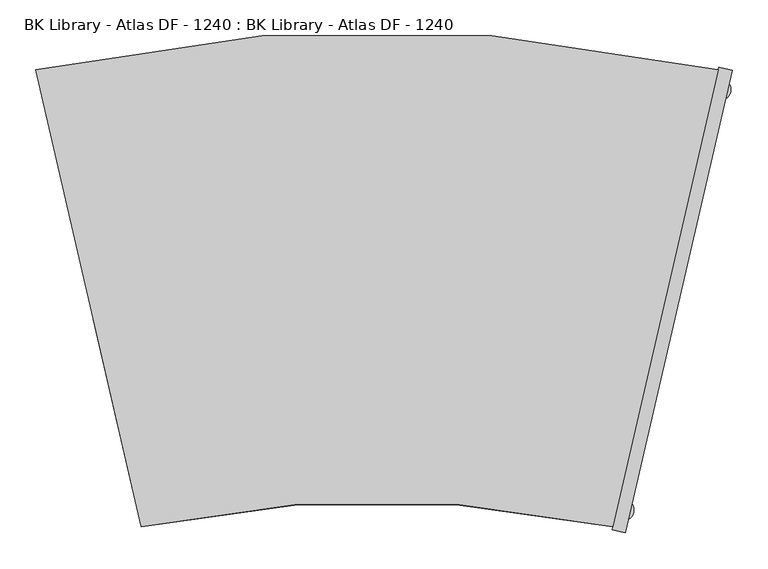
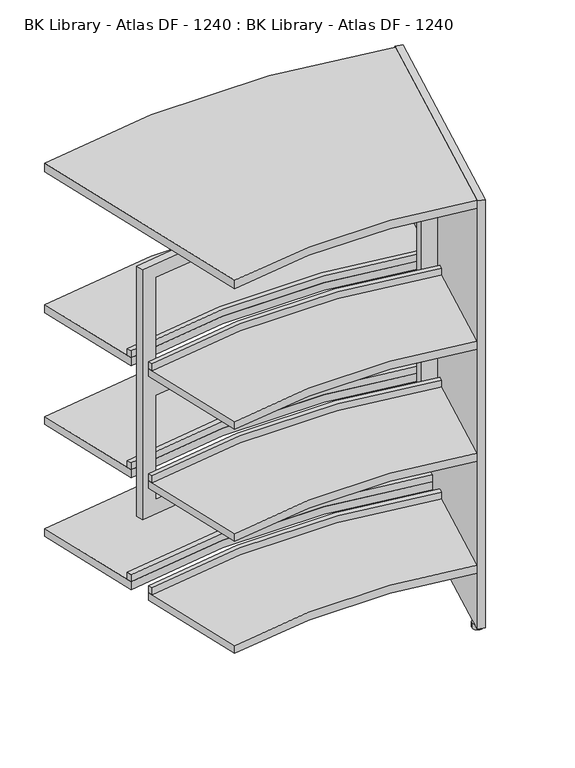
"""IFC4 building model written with IfcOpenShell, lengths in millimetres: furniture geometry, BK Library - Atlas DF - 1240 : BK Library - Atlas DF - 1240."""

from ifc_helpers import new_model, si_unit, point, frame, frame_2d, origin, origin_with_axes, place, context, project, spatial, polyline, circle_curve, trimmed, segment, composite_curve, outline, extrude, source, transform, mapped, element, save
from ifc_brep_helpers import plane_surface, cylinder_surface, revolved_surface, advanced_brep


def bk_library_atlas_df_1240_bk_library_atlas_df_1240_d876e077(model_context):
    return source(origin(), model_context, "Body", "SolidModel", [
        extrude(outline(composite_curve([segment(trimmed(circle_curve(frame_2d((0.0, -1777.8812307)), 2148.52767), [point((-474.1962162, 317.663829))], [point((474.1962162, 317.663829))], False, "CARTESIAN"), True, "CONTINUOUS"), segment(polyline([(474.1962162, 317.663829), (327.6944521, -317.663829)]), True, "CONTINUOUS"), segment(trimmed(circle_curve(frame_2d((0.0, -1840.4430404)), 1557.6392973), [point((327.6944521, -317.663829))], [point((-327.6944521, -317.663829))], True, "CARTESIAN"), True, "CONTINUOUS"), segment(polyline([(-327.6944521, -317.663829), (-474.1962162, 317.663829)]), True, "CONTINUOUS")], self_intersect=False)), frame((0.0, 0.0, 1213.6999998), z_axis=(0.0, 0.0, 1.0), x_axis=(1.0, 0.0, 0.0)), (0.0, 0.0, 1.0), 24.0),
        advanced_brep(
        [(-403.1922937, 9.7442892, 1106.1999998), (-398.6983746, -9.7442892, 1106.1999998), (398.6983746, -9.7442892, 1106.1999998), (403.1922937, 9.7442892, 1106.1999998), (-403.1922937, 9.7442892, 391.1999998), (403.1922937, 9.7442892, 391.1999998), (398.6983746, -9.7442892, 391.1999998), (-398.6983746, -9.7442892, 391.1999998), (359.7000463, -1.6061954, 1066.1999998), (359.7000463, -1.6061954, 768.6999998), (-359.7212176, -1.6103769, 768.6999998), (-359.7212176, -1.6103769, 1066.1999998), (-359.7212176, -1.6103769, 728.6999998), (359.7000463, -1.6061954, 728.6999998), (359.7000463, -1.6061954, 431.1999998), (-359.7212176, -1.6103769, 431.1999998), (359.7000463, 18.8192746, 768.6999998), (359.7000463, 18.8192746, 1066.1999998), (-359.7212176, 18.8151191, 1066.1999998), (-359.7212176, 18.8151191, 768.6999998), (359.7000463, 18.8192746, 728.6999998), (-359.7212176, 18.8151191, 728.6999998), (-359.7212176, 18.8151191, 431.1999998), (359.7000463, 18.8192746, 431.1999998)],
        [
            (0, 1),
            (1, 2, circle_curve(frame((0.0, -1822.824997, 1106.1999998), z_axis=(0.0, 0.0, -1.0), x_axis=(1.0, 0.0, 0.0)), 1856.4002927)),
            (2, 3),
            (3, 0, circle_curve(frame((0.0, -1813.8149651, 1106.1999998), z_axis=(0.0, 0.0, 1.0), x_axis=(1.0, 0.0, 0.0)), 1867.6007014)),
            (4, 5, circle_curve(frame((0.0, -1813.8149651, 391.1999998), z_axis=(0.0, 0.0, -1.0), x_axis=(1.0, 0.0, 0.0)), 1867.6007014)),
            (5, 6),
            (6, 7, circle_curve(frame((0.0, -1822.824997, 391.1999998), z_axis=(0.0, 0.0, 1.0), x_axis=(1.0, 0.0, 0.0)), 1856.4002927)),
            (7, 4),
            (0, 4),
            (7, 1),
            (2, 6),
            (5, 3),
            (8, 9),
            (9, 10, circle_curve(frame((0.0, -1822.824997, 768.6999998), z_axis=(0.0, 0.0, 1.0), x_axis=(1.0, 0.0, 0.0)), 1856.4002927)),
            (10, 11),
            (11, 8, circle_curve(frame((0.0, -1822.824997, 1066.1999998), z_axis=(0.0, 0.0, -1.0), x_axis=(1.0, 0.0, 0.0)), 1856.4002927)),
            (12, 13, circle_curve(frame((0.0, -1822.824997, 728.6999998), z_axis=(0.0, 0.0, -1.0), x_axis=(1.0, 0.0, 0.0)), 1856.4002927)),
            (13, 14),
            (14, 15, circle_curve(frame((0.0, -1822.824997, 431.1999998), z_axis=(0.0, 0.0, 1.0), x_axis=(1.0, 0.0, 0.0)), 1856.4002927)),
            (15, 12),
            (16, 17),
            (17, 18, circle_curve(frame((0.0, -1813.8149651, 1066.1999998), z_axis=(0.0, 0.0, 1.0), x_axis=(1.0, 0.0, 0.0)), 1867.6007014)),
            (18, 19),
            (19, 16, circle_curve(frame((0.0, -1813.8149651, 768.6999998), z_axis=(0.0, 0.0, -1.0), x_axis=(1.0, 0.0, 0.0)), 1867.6007014)),
            (20, 21, circle_curve(frame((0.0, -1813.8149651, 728.6999998), z_axis=(0.0, 0.0, 1.0), x_axis=(1.0, 0.0, 0.0)), 1867.6007014)),
            (21, 22),
            (22, 23, circle_curve(frame((0.0, -1813.8149651, 431.1999998), z_axis=(0.0, 0.0, -1.0), x_axis=(1.0, 0.0, 0.0)), 1867.6007014)),
            (23, 20),
            (16, 9),
            (8, 17),
            (11, 18),
            (10, 19),
            (20, 13),
            (12, 21),
            (15, 22),
            (14, 23),
        ],
        [
            plane_surface(frame((-326.7956683, -321.5615447, 1106.1999998), z_axis=(0.0, 0.0, 1.0), x_axis=(0.224695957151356, -0.9744289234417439, 0.0))),
            plane_surface(frame((-326.7956683, -321.5615447, 391.1999998), z_axis=(0.0, 0.0, -1.0), x_axis=(-0.224695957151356, 0.9744289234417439, 0.0))),
            plane_surface(frame((-403.1922937, 9.7442892, 1106.1999998), z_axis=(-0.9744289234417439, -0.224695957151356, 0.0), x_axis=(0.0, 0.0, -1.0))),
            plane_surface(frame((398.6983746, -9.7442892, 1106.1999998), z_axis=(0.974428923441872, -0.22469595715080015, 0.0), x_axis=(0.0, 0.0, -1.0))),
            revolved_surface(polyline([(1856.4002927, -1822.824997, 391.1999998), (1856.4002927, -1822.824997, 1106.1999998)]), (0.0, -1822.824997, 391.1999998), (0.0, 0.0, -1.0)),
            cylinder_surface(frame((0.0, -1813.8149651, 391.1999998), z_axis=(0.0, 0.0, 1.0), x_axis=(1.0, 0.0, 0.0)), 1867.6007014),
            plane_surface(frame((359.7000463, -114.4923923, 768.6999998), z_axis=(-1.0, 0.0, 0.0), x_axis=(0.0, 1.0, 0.0))),
            plane_surface(frame((359.7000463, -114.4923923, 1066.1999998), z_axis=(0.0, 0.0, -1.0), x_axis=(0.0, 1.0, 0.0))),
            plane_surface(frame((-359.7212176, -114.4923923, 1066.1999998), z_axis=(1.0, 0.0, 0.0), x_axis=(0.0, 1.0, 0.0))),
            plane_surface(frame((-359.7212176, -114.4923923, 768.6999998), z_axis=(0.0, 0.0, 1.0), x_axis=(0.0, 1.0, 0.0))),
            plane_surface(frame((359.7000463, -114.4923923, 728.6999998), z_axis=(0.0, 0.0, -1.0), x_axis=(0.0, 1.0, 0.0))),
            plane_surface(frame((-359.7212176, -114.4923923, 728.6999998), z_axis=(1.0, 0.0, 0.0), x_axis=(0.0, 1.0, 0.0))),
            plane_surface(frame((-359.7212176, -114.4923923, 431.1999998), z_axis=(0.0, 0.0, 1.0), x_axis=(0.0, 1.0, 0.0))),
            plane_surface(frame((359.7000463, -114.4923923, 431.1999998), z_axis=(-1.0, 0.0, 0.0), x_axis=(0.0, 1.0, 0.0))),
        ],
        [
            (0, [[1, 2, 3, 4]]),
            (1, [[5, 6, 7, 8]]),
            (2, [[-1, 9, -8, 10]]),
            (3, [[-3, 11, -6, 12]]),
            (4, [[-2, -10, -7, -11], [13, 14, 15, 16], [17, 18, 19, 20]]),
            (5, [[-4, -12, -5, -9], [21, 22, 23, 24], [25, 26, 27, 28]]),
            (6, [[29, -13, 30, -21]]),
            (7, [[-30, -16, 31, -22]]),
            (8, [[-31, -15, 32, -23]]),
            (9, [[-29, -24, -32, -14]]),
            (10, [[33, -17, 34, -25]]),
            (11, [[-34, -20, 35, -26]]),
            (12, [[-35, -19, 36, -27]]),
            (13, [[-33, -28, -36, -18]]),
        ],
    ),
        extrude(outline(composite_curve([segment(trimmed(circle_curve(frame_2d((0.0, -1840.4430404)), 1557.6392973), [point((327.6944521, -317.663829))], [point((-327.6944521, -317.663829))], True, "CARTESIAN"), True, "CONTINUOUS"), segment(polyline([(-327.6944521, -317.663829), (-394.2058088, -29.2269986)]), True, "CONTINUOUS"), segment(trimmed(circle_curve(frame_2d((0.0, -1785.1487517)), 1799.627579), [point((-394.2058088, -29.2269986))], [point((394.2058088, -29.2269986))], False, "CARTESIAN"), True, "CONTINUOUS"), segment(polyline([(394.2058088, -29.2269986), (327.6944521, -317.663829)]), True, "CONTINUOUS")], self_intersect=False)), frame((0.0, 0.0, 171.6999998), z_axis=(0.0, 0.0, 1.0), x_axis=(1.0, 0.0, 0.0)), (0.0, 0.0, 1.0), 22.0),
        extrude(outline(composite_curve([segment(trimmed(circle_curve(frame_2d((0.0, -1777.8812307)), 2148.52767), [point((-474.1962162, 317.663829))], [point((474.1962162, 317.663829))], False, "CARTESIAN"), True, "CONTINUOUS"), segment(polyline([(474.1962162, 317.663829), (407.6853202, 29.2289965)]), True, "CONTINUOUS"), segment(trimmed(circle_curve(frame_2d((0.0, -1798.2835703)), 1872.4341116), [point((407.6853202, 29.2289965))], [point((-407.6853202, 29.2289965))], True, "CARTESIAN"), True, "CONTINUOUS"), segment(polyline([(-407.6853202, 29.2289965), (-474.1962162, 317.663829)]), True, "CONTINUOUS")], self_intersect=False)), frame((0.0, 0.0, 171.6999998), z_axis=(0.0, 0.0, 1.0), x_axis=(1.0, 0.0, 0.0)), (0.0, 0.0, 1.0), 22.0),
        extrude(outline(composite_curve([segment(trimmed(circle_curve(frame_2d((0.0, -1840.4430404)), 1557.6392973), [point((327.6944521, -317.663829))], [point((-327.6944521, -317.663829))], True, "CARTESIAN"), True, "CONTINUOUS"), segment(polyline([(-327.6944521, -317.663829), (-394.2058088, -29.2269986)]), True, "CONTINUOUS"), segment(trimmed(circle_curve(frame_2d((0.0, -1785.1487517)), 1799.627579), [point((-394.2058088, -29.2269986))], [point((394.2058088, -29.2269986))], False, "CARTESIAN"), True, "CONTINUOUS"), segment(polyline([(394.2058088, -29.2269986), (327.6944521, -317.663829)]), True, "CONTINUOUS")], self_intersect=False)), frame((0.0, 0.0, 491.6999998), z_axis=(0.0, 0.0, 1.0), x_axis=(1.0, 0.0, 0.0)), (0.0, 0.0, 1.0), 22.0),
        extrude(outline(composite_curve([segment(trimmed(circle_curve(frame_2d((0.0, -1777.8812307)), 2148.52767), [point((-474.1962162, 317.663829))], [point((474.1962162, 317.663829))], False, "CARTESIAN"), True, "CONTINUOUS"), segment(polyline([(474.1962162, 317.663829), (407.6853202, 29.2289965)]), True, "CONTINUOUS"), segment(trimmed(circle_curve(frame_2d((0.0, -1798.2835703)), 1872.4341116), [point((407.6853202, 29.2289965))], [point((-407.6853202, 29.2289965))], True, "CARTESIAN"), True, "CONTINUOUS"), segment(polyline([(-407.6853202, 29.2289965), (-474.1962162, 317.663829)]), True, "CONTINUOUS")], self_intersect=False)), frame((0.0, 0.0, 491.6999998), z_axis=(0.0, 0.0, 1.0), x_axis=(1.0, 0.0, 0.0)), (0.0, 0.0, 1.0), 22.0),
        extrude(outline(composite_curve([segment(trimmed(circle_curve(frame_2d((0.0, -1840.4430404)), 1557.6392973), [point((327.6944521, -317.663829))], [point((-327.6944521, -317.663829))], True, "CARTESIAN"), True, "CONTINUOUS"), segment(polyline([(-327.6944521, -317.663829), (-394.2058088, -29.2269986)]), True, "CONTINUOUS"), segment(trimmed(circle_curve(frame_2d((0.0, -1785.1487517)), 1799.627579), [point((-394.2058088, -29.2269986))], [point((394.2058088, -29.2269986))], False, "CARTESIAN"), True, "CONTINUOUS"), segment(polyline([(394.2058088, -29.2269986), (327.6944521, -317.663829)]), True, "CONTINUOUS")], self_intersect=False)), frame((0.0, 0.0, 811.6999998), z_axis=(0.0, 0.0, 1.0), x_axis=(1.0, 0.0, 0.0)), (0.0, 0.0, 1.0), 22.0),
        extrude(outline(composite_curve([segment(trimmed(circle_curve(frame_2d((0.0, -1777.8812307)), 2148.52767), [point((-474.1962162, 317.663829))], [point((474.1962162, 317.663829))], False, "CARTESIAN"), True, "CONTINUOUS"), segment(polyline([(474.1962162, 317.663829), (407.6853202, 29.2289965)]), True, "CONTINUOUS"), segment(trimmed(circle_curve(frame_2d((0.0, -1798.2835703)), 1872.4341116), [point((407.6853202, 29.2289965))], [point((-407.6853202, 29.2289965))], True, "CARTESIAN"), True, "CONTINUOUS"), segment(polyline([(-407.6853202, 29.2289965), (-474.1962162, 317.663829)]), True, "CONTINUOUS")], self_intersect=False)), frame((0.0, 0.0, 811.6999998), z_axis=(0.0, 0.0, 1.0), x_axis=(1.0, 0.0, 0.0)), (0.0, 0.0, 1.0), 22.0),
        extrude(outline(composite_curve([segment(trimmed(circle_curve(frame_2d((0.0, -1785.1487517)), 1799.627579), [point((-394.2058088, -29.2269986))], [point((394.2058088, -29.2269986))], False, "CARTESIAN"), True, "CONTINUOUS"), segment(polyline([(394.2058088, -29.2269986), (391.2848087, -41.8943694)]), True, "CONTINUOUS"), segment(trimmed(circle_curve(frame_2d((0.0, -1790.5831955)), 1791.9309172), [point((391.2848087, -41.8943694))], [point((-391.2848087, -41.8943694))], True, "CARTESIAN"), True, "CONTINUOUS"), segment(polyline([(-391.2848087, -41.8943694), (-394.2058088, -29.2269986)]), True, "CONTINUOUS")], self_intersect=False)), frame((0.0, 0.0, 193.6999998), z_axis=(0.0, 0.0, 1.0), x_axis=(1.0, 0.0, 0.0)), (0.0, 0.0, 1.0), 20.0),
        extrude(outline(composite_curve([segment(trimmed(circle_curve(frame_2d((0.0, -1776.6858327)), 1864.3585062), [point((-410.605951, 41.8947656))], [point((410.605951, 41.8947656))], False, "CARTESIAN"), True, "CONTINUOUS"), segment(polyline([(410.605951, 41.8947656), (407.6853202, 29.2289965)]), True, "CONTINUOUS"), segment(trimmed(circle_curve(frame_2d((0.0, -1798.2835703)), 1872.4341116), [point((407.6853202, 29.2289965))], [point((-407.6853202, 29.2289965))], True, "CARTESIAN"), True, "CONTINUOUS"), segment(polyline([(-407.6853202, 29.2289965), (-410.605951, 41.8947656)]), True, "CONTINUOUS")], self_intersect=False)), frame((0.0, 0.0, 193.6999998), z_axis=(0.0, 0.0, 1.0), x_axis=(1.0, 0.0, 0.0)), (0.0, 0.0, 1.0), 20.0),
        extrude(outline(composite_curve([segment(trimmed(circle_curve(frame_2d((0.0, -1785.1487517)), 1799.627579), [point((-394.2058088, -29.2269986))], [point((394.2058088, -29.2269986))], False, "CARTESIAN"), True, "CONTINUOUS"), segment(polyline([(394.2058088, -29.2269986), (391.2848087, -41.8943694)]), True, "CONTINUOUS"), segment(trimmed(circle_curve(frame_2d((0.0, -1790.5831955)), 1791.9309172), [point((391.2848087, -41.8943694))], [point((-391.2848087, -41.8943694))], True, "CARTESIAN"), True, "CONTINUOUS"), segment(polyline([(-391.2848087, -41.8943694), (-394.2058088, -29.2269986)]), True, "CONTINUOUS")], self_intersect=False)), frame((0.0, 0.0, 513.6999998), z_axis=(0.0, 0.0, 1.0), x_axis=(1.0, 0.0, 0.0)), (0.0, 0.0, 1.0), 20.0),
        extrude(outline(composite_curve([segment(trimmed(circle_curve(frame_2d((0.0, -1776.6858327)), 1864.3585062), [point((-410.605951, 41.8947656))], [point((410.605951, 41.8947656))], False, "CARTESIAN"), True, "CONTINUOUS"), segment(polyline([(410.605951, 41.8947656), (407.6853202, 29.2289965)]), True, "CONTINUOUS"), segment(trimmed(circle_curve(frame_2d((0.0, -1798.2835703)), 1872.4341116), [point((407.6853202, 29.2289965))], [point((-407.6853202, 29.2289965))], True, "CARTESIAN"), True, "CONTINUOUS"), segment(polyline([(-407.6853202, 29.2289965), (-410.605951, 41.8947656)]), True, "CONTINUOUS")], self_intersect=False)), frame((0.0, 0.0, 513.6999998), z_axis=(0.0, 0.0, 1.0), x_axis=(1.0, 0.0, 0.0)), (0.0, 0.0, 1.0), 20.0),
        extrude(outline(composite_curve([segment(trimmed(circle_curve(frame_2d((0.0, -1785.1487517)), 1799.627579), [point((-394.2058088, -29.2269986))], [point((394.2058088, -29.2269986))], False, "CARTESIAN"), True, "CONTINUOUS"), segment(polyline([(394.2058088, -29.2269986), (391.2848087, -41.8943694)]), True, "CONTINUOUS"), segment(trimmed(circle_curve(frame_2d((0.0, -1790.5831955)), 1791.9309172), [point((391.2848087, -41.8943694))], [point((-391.2848087, -41.8943694))], True, "CARTESIAN"), True, "CONTINUOUS"), segment(polyline([(-391.2848087, -41.8943694), (-394.2058088, -29.2269986)]), True, "CONTINUOUS")], self_intersect=False)), frame((0.0, 0.0, 833.6999998), z_axis=(0.0, 0.0, 1.0), x_axis=(1.0, 0.0, 0.0)), (0.0, 0.0, 1.0), 20.0),
        extrude(outline(composite_curve([segment(trimmed(circle_curve(frame_2d((0.0, -1776.6858327)), 1864.3585062), [point((-410.605951, 41.8947656))], [point((410.605951, 41.8947656))], False, "CARTESIAN"), True, "CONTINUOUS"), segment(polyline([(410.605951, 41.8947656), (407.6853202, 29.2289965)]), True, "CONTINUOUS"), segment(trimmed(circle_curve(frame_2d((0.0, -1798.2835703)), 1872.4341116), [point((407.6853202, 29.2289965))], [point((-407.6853202, 29.2289965))], True, "CARTESIAN"), True, "CONTINUOUS"), segment(polyline([(-407.6853202, 29.2289965), (-410.605951, 41.8947656)]), True, "CONTINUOUS")], self_intersect=False)), frame((0.0, 0.0, 833.6999998), z_axis=(0.0, 0.0, 1.0), x_axis=(1.0, 0.0, 0.0)), (0.0, 0.0, 1.0), 20.0),
        extrude(outline(polyline([(475.095, 321.5615447), (493.6091495, 317.2923215), (345.3098178, -325.8307679), (326.7956683, -321.5615447), (475.095, 321.5615447)])), frame((0.0, 0.0, 13.6999998), z_axis=(0.0, 0.0, 1.0), x_axis=(1.0, 0.0, 0.0)), (0.0, 0.0, 1.0), 1224.0),
        extrude(outline(composite_curve([segment(trimmed(circle_curve(frame_2d((477.608406, 290.1883722)), 14.4994573), [point((492.1078633, 290.1883722))], [point((463.1089486, 290.1883722))], False, "CARTESIAN"), True, "CONTINUOUS"), segment(trimmed(circle_curve(frame_2d((477.608406, 290.1883722)), 14.4994573), [point((463.1089486, 290.1883722))], [point((492.1078633, 290.1883722))], False, "CARTESIAN"), True, "CONTINUOUS")], self_intersect=False)), origin_with_axes(), (0.0, 0.0, 1.0), 13.6999998),
        extrude(outline(composite_curve([segment(trimmed(circle_curve(frame_2d((342.7923392, -294.4590973)), 14.4994573), [point((357.2917965, -294.4590973))], [point((328.2928818, -294.4590973))], False, "CARTESIAN"), True, "CONTINUOUS"), segment(trimmed(circle_curve(frame_2d((342.7923392, -294.4590973)), 14.4994573), [point((328.2928818, -294.4590973))], [point((357.2917965, -294.4590973))], False, "CARTESIAN"), True, "CONTINUOUS")], self_intersect=False)), origin_with_axes(), (0.0, 0.0, 1.0), 13.6999998),
    ])


if __name__ == "__main__":
    model = new_model("IFC4")
    model_context = context("Model", 3, world=origin())
    ifc_project = project(units=[si_unit("LENGTHUNIT", "METRE", prefix="MILLI")], contexts=[model_context])
    site = spatial("IfcSite", under=ifc_project)
    building = spatial("IfcBuilding", under=site)
    placement = place(None, origin())
    bk_library_atlas_df_1240_bk_library_atlas_df_1240_shape = bk_library_atlas_df_1240_bk_library_atlas_df_1240_d876e077(model_context)
    element("IfcFurniture", 1, ObjectType="BK Library - Atlas DF - 1240 : BK Library - Atlas DF - 1240", at=placement, inside=building, context=model_context, shape_type="MappedRepresentation", body=[
        mapped(bk_library_atlas_df_1240_bk_library_atlas_df_1240_shape, transform((0.0, 0.0, 0.0), x_axis=(1.0, 0.0, 0.0), y_axis=(0.0, 1.0, 0.0), z_axis=(0.0, 0.0, 1.0))),
    ])
    save(model, "model.ifc")
